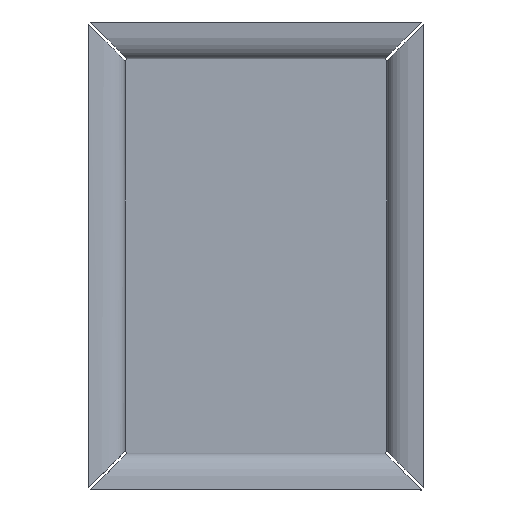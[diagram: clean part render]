
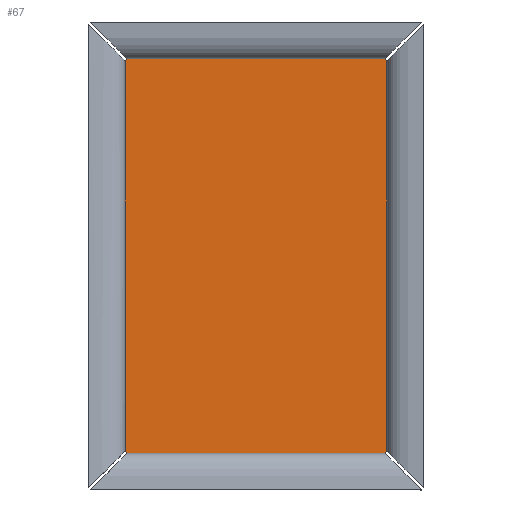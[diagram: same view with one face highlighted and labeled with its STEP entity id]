
A CAD part, top view. The second image highlights one B-rep face of the part: STEP entity #67.
In plain terms, the highlighted planar face has unit normal (0, 0, 1).
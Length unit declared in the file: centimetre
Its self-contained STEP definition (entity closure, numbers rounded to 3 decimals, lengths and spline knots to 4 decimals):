
#67=ADVANCED_FACE($,(#142),#910,.T.);
#142=FACE_OUTER_BOUND($,#217,.T.);
#217=EDGE_LOOP($,(#475,#476,#477,#478,#479,#480,#481,#482));
#475=ORIENTED_EDGE($,*,*,#731,.F.);
#476=ORIENTED_EDGE($,*,*,#724,.F.);
#477=ORIENTED_EDGE($,*,*,#730,.F.);
#478=ORIENTED_EDGE($,*,*,#723,.F.);
#479=ORIENTED_EDGE($,*,*,#729,.F.);
#480=ORIENTED_EDGE($,*,*,#715,.F.);
#481=ORIENTED_EDGE($,*,*,#717,.F.);
#482=ORIENTED_EDGE($,*,*,#725,.F.);
#715=EDGE_CURVE($,#848,#861,#1077,.T.);
#717=EDGE_CURVE($,#849,#848,#1079,.T.);
#723=EDGE_CURVE($,#856,#855,#1085,.T.);
#724=EDGE_CURVE($,#858,#857,#1086,.T.);
#725=EDGE_CURVE($,#859,#849,#1087,.T.);
#729=EDGE_CURVE($,#861,#856,#1091,.T.);
#730=EDGE_CURVE($,#855,#858,#1092,.T.);
#731=EDGE_CURVE($,#857,#859,#1093,.T.);
#848=VERTEX_POINT($,#2210);
#849=VERTEX_POINT($,#2211);
#855=VERTEX_POINT($,#2217);
#856=VERTEX_POINT($,#2218);
#857=VERTEX_POINT($,#2219);
#858=VERTEX_POINT($,#2220);
#859=VERTEX_POINT($,#2221);
#861=VERTEX_POINT($,#2223);
#910=PLANE($,#1252);
#1077=B_SPLINE_CURVE_WITH_KNOTS($,1,(#2108,#2109),.UNSPECIFIED.,.F.,.F.,
(2,2),(0.85,162.95),.UNSPECIFIED.);
#1079=B_SPLINE_CURVE_WITH_KNOTS($,1,(#2112,#2113),.UNSPECIFIED.,.F.,.F.,
(2,2),(-1.,0.),.UNSPECIFIED.);
#1085=B_SPLINE_CURVE_WITH_KNOTS($,1,(#2128,#2129),.UNSPECIFIED.,.F.,.F.,
(2,2),(0.85,107.95),.UNSPECIFIED.);
#1086=B_SPLINE_CURVE_WITH_KNOTS($,1,(#2130,#2131),.UNSPECIFIED.,.F.,.F.,
(2,2),(0.85,162.95),.UNSPECIFIED.);
#1087=B_SPLINE_CURVE_WITH_KNOTS($,1,(#2132,#2133),.UNSPECIFIED.,.F.,.F.,
(2,2),(0.85,107.95),.UNSPECIFIED.);
#1091=B_SPLINE_CURVE_WITH_KNOTS($,1,(#2140,#2141),.UNSPECIFIED.,.F.,.F.,
(2,2),(0.,1.),.UNSPECIFIED.);
#1092=B_SPLINE_CURVE_WITH_KNOTS($,1,(#2142,#2143),.UNSPECIFIED.,.F.,.F.,
(2,2),(0.,1.),.UNSPECIFIED.);
#1093=B_SPLINE_CURVE_WITH_KNOTS($,1,(#2144,#2145),.UNSPECIFIED.,.F.,.F.,
(2,2),(0.,1.),.UNSPECIFIED.);
#1252=AXIS2_PLACEMENT_3D($,#2172,#1283,$);
#1283=DIRECTION($,(0.,0.,1.));
#2108=CARTESIAN_POINT($,(0.,0.85,3.5));
#2109=CARTESIAN_POINT($,(0.,162.95,3.5));
#2112=CARTESIAN_POINT($,(0.85,0.,3.5));
#2113=CARTESIAN_POINT($,(0.,0.85,3.5));
#2128=CARTESIAN_POINT($,(0.85,163.8,3.5));
#2129=CARTESIAN_POINT($,(107.95,163.8,3.5));
#2130=CARTESIAN_POINT($,(108.8,162.95,3.5));
#2131=CARTESIAN_POINT($,(108.8,0.85,3.5));
#2132=CARTESIAN_POINT($,(107.95,0.,3.5));
#2133=CARTESIAN_POINT($,(0.85,0.,3.5));
#2140=CARTESIAN_POINT($,(0.,162.95,3.5));
#2141=CARTESIAN_POINT($,(0.85,163.8,3.5));
#2142=CARTESIAN_POINT($,(107.95,163.8,3.5));
#2143=CARTESIAN_POINT($,(108.8,162.95,3.5));
#2144=CARTESIAN_POINT($,(108.8,0.85,3.5));
#2145=CARTESIAN_POINT($,(107.95,0.,3.5));
#2172=CARTESIAN_POINT($,(0.,0.,3.5));
#2210=CARTESIAN_POINT($,(0.,0.85,3.5));
#2211=CARTESIAN_POINT($,(0.85,0.,3.5));
#2217=CARTESIAN_POINT($,(107.95,163.8,3.5));
#2218=CARTESIAN_POINT($,(0.85,163.8,3.5));
#2219=CARTESIAN_POINT($,(108.8,0.85,3.5));
#2220=CARTESIAN_POINT($,(108.8,162.95,3.5));
#2221=CARTESIAN_POINT($,(107.95,0.,3.5));
#2223=CARTESIAN_POINT($,(0.,162.95,3.5));
